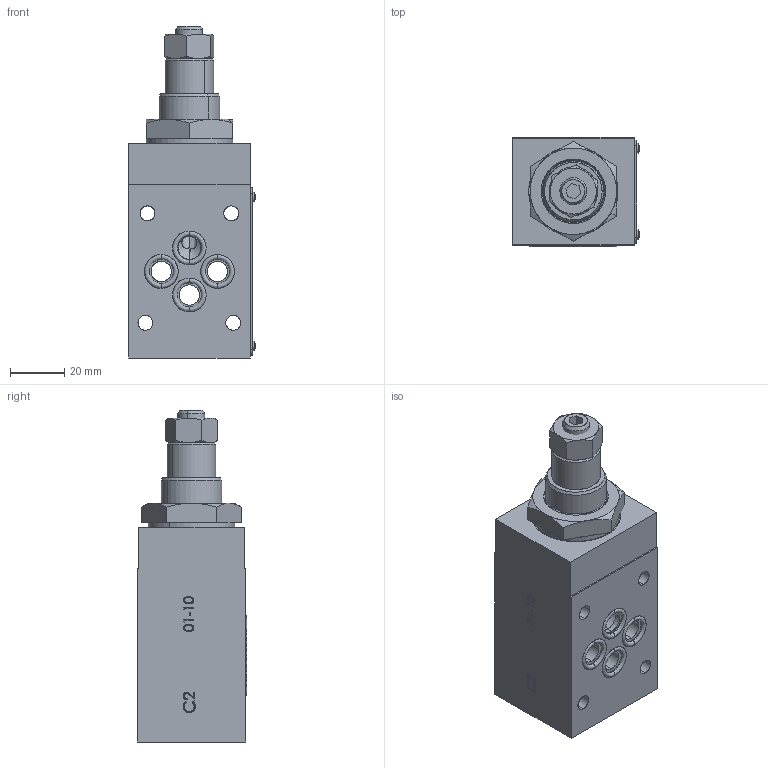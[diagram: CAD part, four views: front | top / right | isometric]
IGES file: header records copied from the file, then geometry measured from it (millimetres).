
Start section: SolidWorks IGES file using analytic representation for surfaces
Global section: file name: C:\Users\user\Desktop\FT358-5-A-03.IGS; native system: SolidWorks 2014; preprocessor: SolidWorks 2014; author: user; date: 140618.082534; units: millimetre
Bounding box: 46.96 x 40.38 x 122.8 mm (x, y, z)
Surface area: 49795.4 mm2 (no closed solid volume)
Topology: 0 solids, 0 shells, 1765 faces, 21330 edges, 21316 vertices
Faces by surface type: bspline 1373, revolution 392
